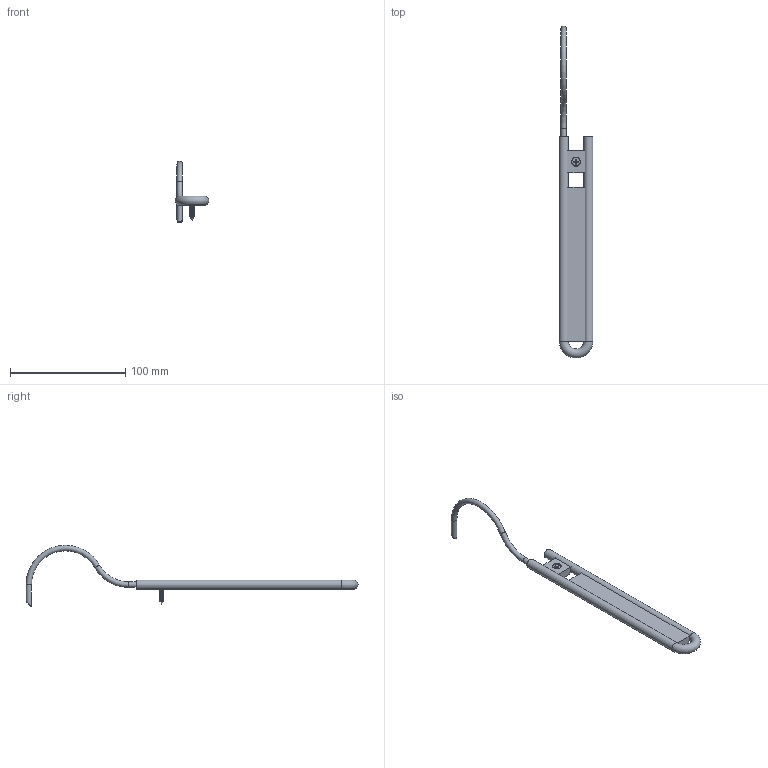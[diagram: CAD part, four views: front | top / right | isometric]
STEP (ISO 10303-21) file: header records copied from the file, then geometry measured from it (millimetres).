
FILE_DESCRIPTION(/* description */ ('Alibre Inc.'),/* implementation_level */ '2;1');
FILE_NAME(/* name */ 'export0',/* time_stamp */ '2010-12-06T10:18:11-05:00',/* author */ (''),/* organization */ (''),/* preprocessor_version */ 'ST-DEVELOPER v10',/* originating_system */ 'Alibre',/* authorisation */ '');
FILE_SCHEMA (('AUTOMOTIVE_DESIGN'));
Length unit declared in the file: centimetre
Bounding box: 29.21 x 287.85 x 53.18 mm (x, y, z)
Volume: 32673.5 mm3; surface area: 30619 mm2
Topology: 6 solids, 6 shells, 157 faces, 355 edges, 210 vertices
Faces by surface type: cone 93, plane 40, cylinder 17, torus 7
Full cylindrical faces by diameter (mm): 3.239 x2, 3.505 x1, 4.763 x4, 4.775 x2, 7.938 x2
Entity records: 4335 total; most frequent: CARTESIAN_POINT 823, DIRECTION 719, ORIENTED_EDGE 642, EDGE_CURVE 321, AXIS2_PLACEMENT_3D 301, VERTEX_POINT 198, FACE_BOUND 185, EDGE_LOOP 184
